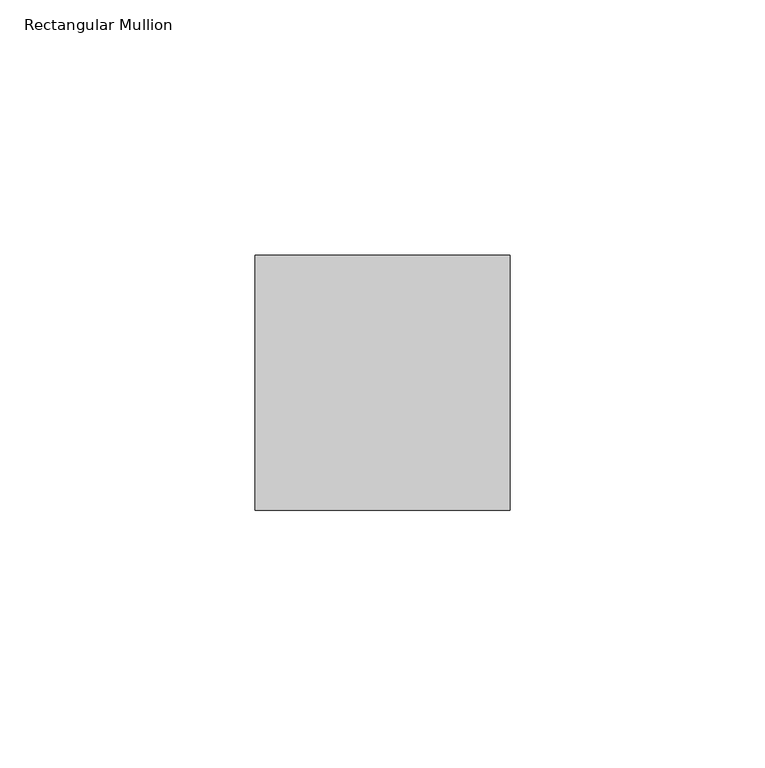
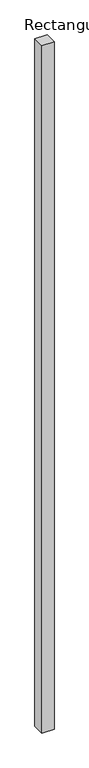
"""IFC4 building model written with IfcOpenShell, lengths in millimetres: member geometry, Rectangular Mullion : RSen_21_CWM_support profile - 50x50 - left_gen_duco projects."""

from ifc_helpers import new_model, si_unit, frame, origin, place, context, project, spatial, polyline, outline, extrude, source, transform, mapped, element, save


def rectangular_mullion_75c52e10(model_context):
    return source(origin(), model_context, "Body", "SweptSolid", [
        extrude(outline(polyline([(-50.0, 1.0), (-50.0, -49.0), (-100.0, -49.0), (-100.0, 1.0), (-50.0, 1.0)])), frame((0.0, 0.0, -3000.0), z_axis=(0.0, 0.0, 1.0), x_axis=(1.0, 0.0, 0.0)), (0.0, 0.0, 1.0), 3000.0),
    ])


if __name__ == "__main__":
    model = new_model("IFC4")
    model_context = context("Model", 3, world=origin())
    ifc_project = project(units=[si_unit("LENGTHUNIT", "METRE", prefix="MILLI")], contexts=[model_context])
    site = spatial("IfcSite", under=ifc_project)
    building = spatial("IfcBuilding", under=site)
    placement = place(None, origin())
    rectangular_mullion_shape = rectangular_mullion_75c52e10(model_context)
    element("IfcMember", 1, ObjectType="Rectangular Mullion : RSen_21_CWM_support profile - 50x50 - left_gen_duco projects", at=placement, inside=building, context=model_context, shape_type="MappedRepresentation", body=[
        mapped(rectangular_mullion_shape, transform((0.0, 0.0, 0.0), x_axis=(1.0, 0.0, 0.0), y_axis=(0.0, 1.0, 0.0), z_axis=(0.0, 0.0, 1.0))),
    ])
    save(model, "model.ifc")
